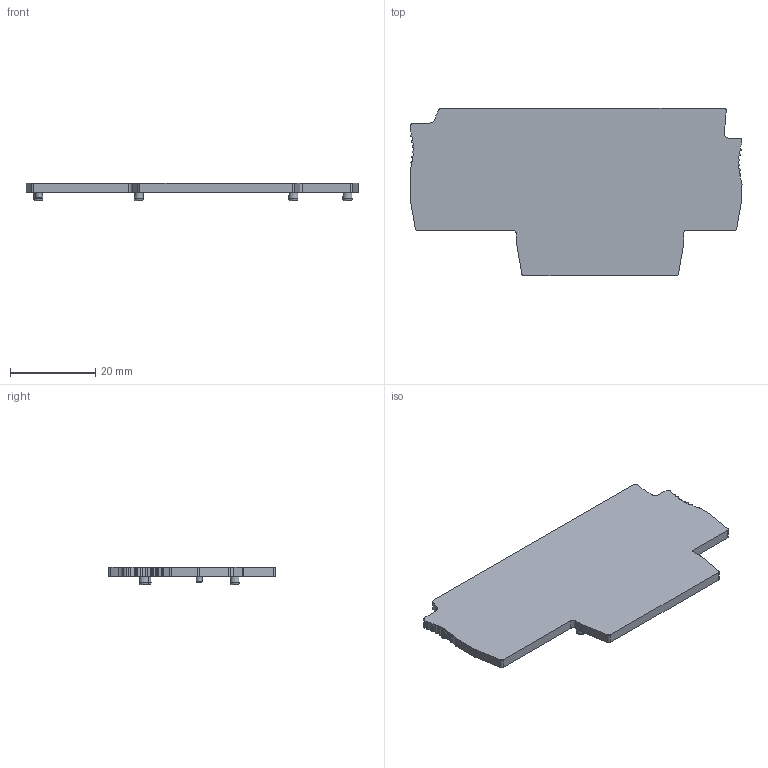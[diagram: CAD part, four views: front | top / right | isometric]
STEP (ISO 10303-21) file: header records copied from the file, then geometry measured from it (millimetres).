
FILE_DESCRIPTION(('Open CASCADE Model'),'2;1');
FILE_NAME('Open CASCADE Shape Model','2022-12-06T16:10:57',('Author'),( 'Open CASCADE'),'Open CASCADE STEP processor 6.5','Open CASCADE 6.5' ,'Unknown');
FILE_SCHEMA(('AUTOMOTIVE_DESIGN { 1 0 10303 214 1 1 1 1 }'));
Length unit declared in the file: millimetre
Products named in the file (227): CADSOFTTOOLS 6; CADSOFTTOOLS 6.1; CADSOFTTOOLS 6.2; CADSOFTTOOLS 6.3; CADSOFTTOOLS 6.4; CADSOFTTOOLS 6.5; CADSOFTTOOLS 6.6; CADSOFTTOOLS 6.7; CADSOFTTOOLS 6.8; CADSOFTTOOLS 6.9; CADSOFTTOOLS 6.10; CADSOFTTOOLS 6.11; CADSOFTTOOLS 6.12; CADSOFTTOOLS 6.13; CADSOFTTOOLS 6.14; CADSOFTTOOLS 6.15; CADSOFTTOOLS 6.16; CADSOFTTOOLS 6.17; CADSOFTTOOLS 6.18; CADSOFTTOOLS 6.19; CADSOFTTOOLS 6.20; CADSOFTTOOLS 6.21; CADSOFTTOOLS 6.22; CADSOFTTOOLS 6.23; CADSOFTTOOLS 6.24; CADSOFTTOOLS 6.25; CADSOFTTOOLS 6.26; CADSOFTTOOLS 6.27; CADSOFTTOOLS 6.28; CADSOFTTOOLS 6.29; CADSOFTTOOLS 6.30; CADSOFTTOOLS 6.31; CADSOFTTOOLS 6.32; CADSOFTTOOLS 6.33; CADSOFTTOOLS 6.34; CADSOFTTOOLS 6.35; CADSOFTTOOLS 6.36; CADSOFTTOOLS 6.37; CADSOFTTOOLS 6.38; CADSOFTTOOLS 6.39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
Assembly tree (226 placements, depth 2):
  CADSOFTTOOLS 6
    CADSOFTTOOLS 6.1
    CADSOFTTOOLS 6.2
    CADSOFTTOOLS 6.3
    CADSOFTTOOLS 6.4
    CADSOFTTOOLS 6.5
    CADSOFTTOOLS 6.6
    CADSOFTTOOLS 6.7
    CADSOFTTOOLS 6.8
    CADSOFTTOOLS 6.9
    CADSOFTTOOLS 6.10
    CADSOFTTOOLS 6.11
    CADSOFTTOOLS 6.12
    CADSOFTTOOLS 6.13
    CADSOFTTOOLS 6.14
    CADSOFTTOOLS 6.15
    CADSOFTTOOLS 6.16
    CADSOFTTOOLS 6.17
    CADSOFTTOOLS 6.18
    CADSOFTTOOLS 6.19
    CADSOFTTOOLS 6.20
    CADSOFTTOOLS 6.21
    CADSOFTTOOLS 6.22
    CADSOFTTOOLS 6.23
    CADSOFTTOOLS 6.24
    CADSOFTTOOLS 6.25
    CADSOFTTOOLS 6.26
    CADSOFTTOOLS 6.27
    CADSOFTTOOLS 6.28
    CADSOFTTOOLS 6.29
    CADSOFTTOOLS 6.30
    CADSOFTTOOLS 6.31
    CADSOFTTOOLS 6.32
    CADSOFTTOOLS 6.33
    CADSOFTTOOLS 6.34
    CADSOFTTOOLS 6.35
    CADSOFTTOOLS 6.36
    CADSOFTTOOLS 6.37
    CADSOFTTOOLS 6.38
    CADSOFTTOOLS 6.39
    CADSOFTTOOLS 6.40
    CADSOFTTOOLS 6.41
    CADSOFTTOOLS 6.42
    CADSOFTTOOLS 6.43
    CADSOFTTOOLS 6.44
    CADSOFTTOOLS 6.45
    CADSOFTTOOLS 6.46
    CADSOFTTOOLS 6.47
    CADSOFTTOOLS 6.48
    CADSOFTTOOLS 6.49
    CADSOFTTOOLS 6.50
    CADSOFTTOOLS 6.51
    CADSOFTTOOLS 6.52
    CADSOFTTOOLS 6.53
    CADSOFTTOOLS 6.54
    CADSOFTTOOLS 6.55
    CADSOFTTOOLS 6.56
    CADSOFTTOOLS 6.57
    CADSOFTTOOLS 6.58
    CADSOFTTOOLS 6.59
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Bounding box: 78 x 39.3 x 4.2 mm (x, y, z)
Surface area: 6418.4 mm2 (no closed solid volume)
Topology: 0 solids, 226 shells, 226 faces, 1220 edges, 1198 vertices
Faces by surface type: cylinder 117, plane 96, cone 5, bspline 4, torus 4
Full cylindrical faces by diameter (mm): 1 x4, 1.4 x1, 2.154 x4
Entity records: 26932 total; most frequent: CARTESIAN_POINT 7155, DIRECTION 3238, ORIENTED_EDGE 1242, PCURVE 1242, DEFINITIONAL_REPRESENTATION 1242, EDGE_CURVE 1220, VERTEX_POINT 1198, SURFACE_CURVE 1198
